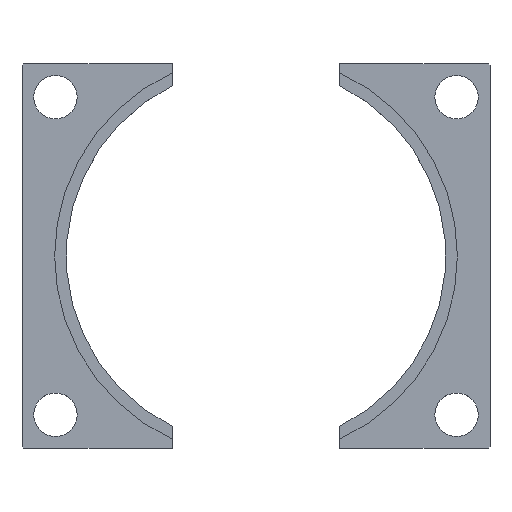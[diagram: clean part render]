
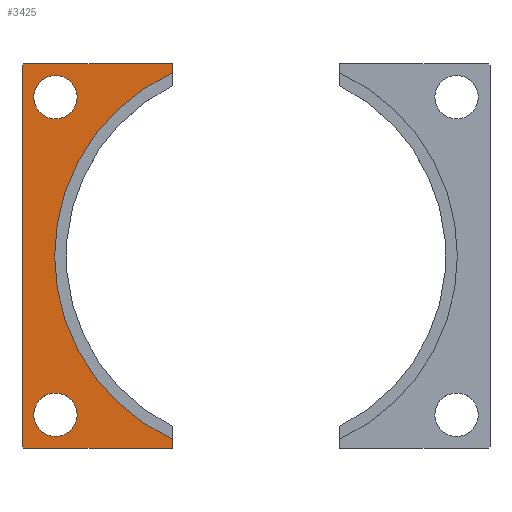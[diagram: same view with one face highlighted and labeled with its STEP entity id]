
A CAD part, top view. The second image highlights one B-rep face of the part: STEP entity #3425.
In plain terms, the highlighted planar face has unit normal (0, 0, 1).
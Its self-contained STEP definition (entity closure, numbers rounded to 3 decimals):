
#28=CIRCLE('',#3558,60.25);
#29=CIRCLE('',#3559,6.5);
#30=CIRCLE('',#3560,6.5);
#57=FACE_BOUND('',#522,.T.);
#58=FACE_BOUND('',#523,.T.);
#145=PLANE('',#3557);
#321=FACE_OUTER_BOUND('',#521,.T.);
#521=EDGE_LOOP('',(#3057,#3058,#3059,#3060,#3061,#3062,#3063,#3064));
#522=EDGE_LOOP('',(#3065));
#523=EDGE_LOOP('',(#3066));
#834=LINE('',#6054,#1164);
#837=LINE('',#6059,#1167);
#839=LINE('',#6063,#1169);
#840=LINE('',#6065,#1170);
#841=LINE('',#6069,#1171);
#842=LINE('',#6071,#1172);
#843=LINE('',#6072,#1173);
#1164=VECTOR('',#4047,10.);
#1167=VECTOR('',#4052,10.);
#1169=VECTOR('',#4056,10.);
#1170=VECTOR('',#4057,10.);
#1171=VECTOR('',#4060,10.);
#1172=VECTOR('',#4061,10.);
#1173=VECTOR('',#4062,10.);
#1659=VERTEX_POINT('',#6052);
#1660=VERTEX_POINT('',#6053);
#1661=VERTEX_POINT('',#6058);
#1662=VERTEX_POINT('',#6062);
#1663=VERTEX_POINT('',#6064);
#1664=VERTEX_POINT('',#6066);
#1665=VERTEX_POINT('',#6068);
#1666=VERTEX_POINT('',#6070);
#1667=VERTEX_POINT('',#6073);
#1668=VERTEX_POINT('',#6075);
#2133=EDGE_CURVE('',#1659,#1660,#834,.T.);
#2136=EDGE_CURVE('',#1660,#1661,#837,.T.);
#2138=EDGE_CURVE('',#1662,#1659,#839,.T.);
#2139=EDGE_CURVE('',#1663,#1662,#840,.T.);
#2140=EDGE_CURVE('',#1663,#1664,#28,.T.);
#2141=EDGE_CURVE('',#1665,#1664,#841,.T.);
#2142=EDGE_CURVE('',#1666,#1665,#842,.T.);
#2143=EDGE_CURVE('',#1661,#1666,#843,.T.);
#2144=EDGE_CURVE('',#1667,#1667,#29,.T.);
#2145=EDGE_CURVE('',#1668,#1668,#30,.T.);
#3057=ORIENTED_EDGE('',*,*,#2133,.F.);
#3058=ORIENTED_EDGE('',*,*,#2138,.F.);
#3059=ORIENTED_EDGE('',*,*,#2139,.F.);
#3060=ORIENTED_EDGE('',*,*,#2140,.T.);
#3061=ORIENTED_EDGE('',*,*,#2141,.F.);
#3062=ORIENTED_EDGE('',*,*,#2142,.F.);
#3063=ORIENTED_EDGE('',*,*,#2143,.F.);
#3064=ORIENTED_EDGE('',*,*,#2136,.F.);
#3065=ORIENTED_EDGE('',*,*,#2144,.T.);
#3066=ORIENTED_EDGE('',*,*,#2145,.T.);
#3425=ADVANCED_FACE('',(#321,#57,#58),#145,.T.);
#3557=AXIS2_PLACEMENT_3D('',#6061,#4054,#4055);
#3558=AXIS2_PLACEMENT_3D('',#6067,#4058,#4059);
#3559=AXIS2_PLACEMENT_3D('',#6074,#4063,#4064);
#3560=AXIS2_PLACEMENT_3D('',#6076,#4065,#4066);
#4047=DIRECTION('',(-0.707,0.707,0.));
#4052=DIRECTION('',(0.,1.,0.));
#4054=DIRECTION('center_axis',(0.,0.,1.));
#4055=DIRECTION('ref_axis',(1.,0.,0.));
#4056=DIRECTION('',(-1.,0.,0.));
#4057=DIRECTION('',(0.,-1.,0.));
#4058=DIRECTION('center_axis',(0.,0.,-1.));
#4059=DIRECTION('ref_axis',(-1.,0.,0.));
#4060=DIRECTION('',(0.,-1.,0.));
#4061=DIRECTION('',(1.,0.,0.));
#4062=DIRECTION('',(0.707,0.707,0.));
#4063=DIRECTION('center_axis',(0.,0.,-1.));
#4064=DIRECTION('ref_axis',(-1.,0.,0.));
#4065=DIRECTION('center_axis',(0.,0.,-1.));
#4066=DIRECTION('ref_axis',(-1.,0.,0.));
#6052=CARTESIAN_POINT('',(-83.835,-55.034,12.));
#6053=CARTESIAN_POINT('',(-84.335,-54.534,12.));
#6054=CARTESIAN_POINT('',(-94.145,-44.724,12.));
#6058=CARTESIAN_POINT('',(-84.335,59.466,12.));
#6059=CARTESIAN_POINT('',(-84.335,59.966,12.));
#6061=CARTESIAN_POINT('Origin',(-67.076,2.466,12.));
#6062=CARTESIAN_POINT('',(-39.335,-55.034,12.));
#6063=CARTESIAN_POINT('',(-84.335,-55.034,12.));
#6064=CARTESIAN_POINT('',(-39.335,-52.353,12.));
#6065=CARTESIAN_POINT('',(-39.335,-55.034,12.));
#6066=CARTESIAN_POINT('',(-39.335,57.284,12.));
#6067=CARTESIAN_POINT('Origin',(-14.335,2.466,12.));
#6068=CARTESIAN_POINT('',(-39.335,59.966,12.));
#6069=CARTESIAN_POINT('',(-39.335,53.412,12.));
#6070=CARTESIAN_POINT('',(-83.835,59.966,12.));
#6071=CARTESIAN_POINT('',(-39.335,59.966,12.));
#6072=CARTESIAN_POINT('',(-94.145,49.656,12.));
#6073=CARTESIAN_POINT('',(-67.835,-45.034,12.));
#6074=CARTESIAN_POINT('Origin',(-74.335,-45.034,12.));
#6075=CARTESIAN_POINT('',(-67.835,49.966,12.));
#6076=CARTESIAN_POINT('Origin',(-74.335,49.966,12.));
